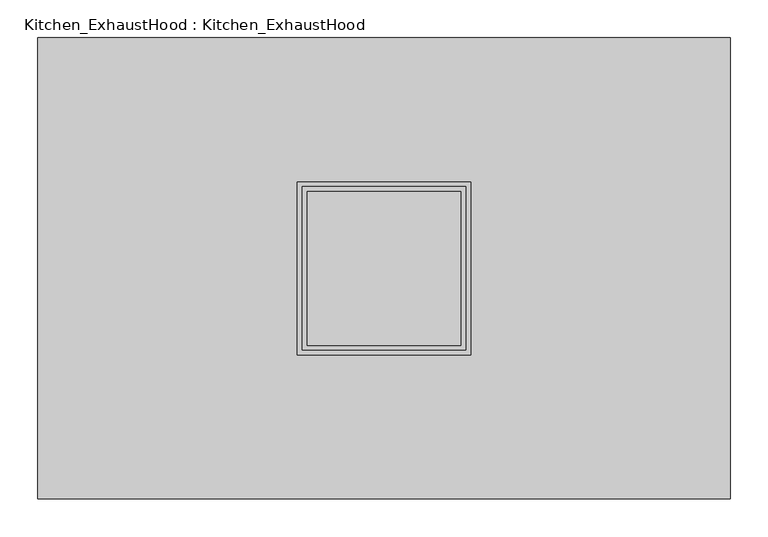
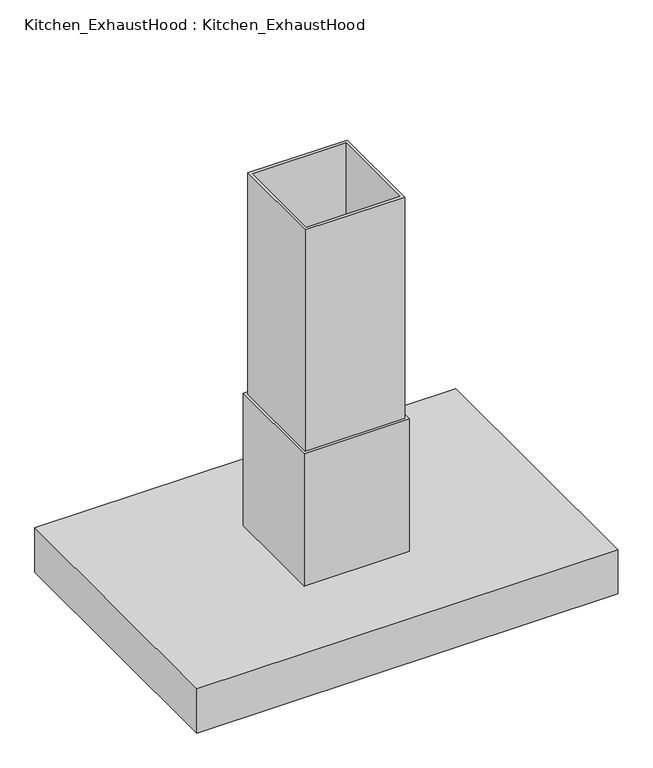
"""IFC4 building model written with IfcOpenShell, lengths in millimetres: proxy geometry, Kitchen_ExhaustHood : Kitchen_ExhaustHood."""

from ifc_helpers import new_model, si_unit, point, frame, frame_2d, origin, origin_2d, place, context, project, spatial, polyline, circle_curve, ellipse_curve, trimmed, segment, composite_curve, outline, extrude, faceted_brep, source, transform, mapped, element, save
from ifc_brep_helpers import plane_surface, cylinder_surface, revolved_surface, advanced_brep


def kitchen_exhausthood_kitchen_exhausthood_eb094368(model_context):
    return source(origin(), model_context, "Body", "SolidModel", [
        advanced_brep(
        [(245.9934915, 0.0, 928.6509221), (211.2065085, 0.0, 928.6509221), (228.6, 0.0, 944.5625), (247.65, 0.0, 928.6509221), (209.55, 0.0, 928.6509221), (247.65, 0.0, 927.1), (209.55, 0.0, 927.1), (244.475, 0.0, 927.1), (212.725, 0.0, 927.1), (228.6, 0.0, 942.975)],
        [
            (0, 1, circle_curve(frame((228.6, 0.0, 928.6509221), z_axis=(0.0, 0.0, 1.0), x_axis=(-1.0, 0.0, 0.0)), 17.3934915)),
            (1, 2, circle_curve(frame((228.6, 0.0, 927.1), z_axis=(0.0, 1.0, 0.0), x_axis=(1.0, 0.0, 0.0)), 17.4625)),
            (2, 0, circle_curve(frame((228.6, 0.0, 927.1), z_axis=(0.0, 1.0, 0.0), x_axis=(-1.0, 0.0, 0.0)), 17.4625)),
            (1, 0, circle_curve(frame((228.6, 0.0, 928.6509221), z_axis=(0.0, 0.0, 1.0), x_axis=(-1.0, 0.0, 0.0)), 17.3934915)),
            (3, 4, circle_curve(frame((228.6, 0.0, 928.6509221), z_axis=(0.0, 0.0, 1.0), x_axis=(-1.0, 0.0, 0.0)), 19.05)),
            (4, 1),
            (0, 3),
            (4, 3, circle_curve(frame((228.6, 0.0, 928.6509221), z_axis=(0.0, 0.0, 1.0), x_axis=(-1.0, 0.0, 0.0)), 19.05)),
            (5, 6, circle_curve(frame((228.6, 0.0, 927.1), z_axis=(0.0, 0.0, 1.0), x_axis=(-1.0, 0.0, 0.0)), 19.05)),
            (6, 4),
            (3, 5),
            (6, 5, circle_curve(frame((228.6, 0.0, 927.1), z_axis=(0.0, 0.0, 1.0), x_axis=(-1.0, 0.0, 0.0)), 19.05)),
            (7, 8, circle_curve(frame((228.6, 0.0, 927.1), z_axis=(0.0, 0.0, 1.0), x_axis=(-1.0, 0.0, 0.0)), 15.875)),
            (8, 6),
            (5, 7),
            (8, 7, circle_curve(frame((228.6, 0.0, 927.1), z_axis=(0.0, 0.0, 1.0), x_axis=(-1.0, 0.0, 0.0)), 15.875)),
            (9, 8, circle_curve(frame((228.6, 0.0, 927.1), z_axis=(0.0, -1.0, 0.0), x_axis=(1.0, 0.0, 0.0)), 15.875)),
            (7, 9, circle_curve(frame((228.6, 0.0, 927.1), z_axis=(0.0, -1.0, 0.0), x_axis=(-1.0, 0.0, 0.0)), 15.875)),
        ],
        [
            revolved_surface(trimmed(ellipse_curve(frame((228.6, 0.0, 927.1), z_axis=(0.0, -1.0, 0.0), x_axis=(1.0, 0.0, 0.0)), 17.4625, 17.4625), [point((228.6, 0.0, 944.5625))], [point((211.2065085, 0.0, 928.6509221))], True, "CARTESIAN"), (228.6, 0.0, 844.55), (0.0, 0.0, -1.0)),
            plane_surface(frame((228.6, 0.0, 928.6509221), z_axis=(0.0, 0.0, 1.0), x_axis=(-1.0, 0.0, 0.0))),
            cylinder_surface(frame((228.6, 0.0, 844.55), z_axis=(0.0, 0.0, -1.0), x_axis=(-1.0, 0.0, 0.0)), 19.05),
            plane_surface(frame((228.6, 0.0, 927.1), z_axis=(0.0, 0.0, -1.0), x_axis=(-1.0, 0.0, 0.0))),
            revolved_surface(trimmed(ellipse_curve(frame((228.6, 0.0, 927.1), z_axis=(0.0, 1.0, 0.0), x_axis=(1.0, 0.0, 0.0)), 15.875, 15.875), [point((212.725, 0.0, 927.1))], [point((228.6, 0.0, 942.975))], True, "CARTESIAN"), (228.6, 0.0, 844.55), (0.0, 0.0, -1.0)),
        ],
        [
            (0, [[1, 2, 3]]),
            (0, [[4, -3, -2]]),
            (1, [[5, 6, -1, 7]]),
            (1, [[8, -7, -4, -6]]),
            (2, [[9, 10, -5, 11]]),
            (2, [[12, -11, -8, -10]]),
            (3, [[13, 14, -9, 15]]),
            (3, [[16, -15, -12, -14]]),
            (4, [[17, -13, 18]]),
            (4, [[-18, -16, -17]]),
        ],
    ),
        advanced_brep(
        [(17.3934915, 0.0, 928.6509221), (-17.3934915, 0.0, 928.6509221), (0.0, 0.0, 944.5625), (19.05, 0.0, 928.6509221), (-19.05, 0.0, 928.6509221), (19.05, 0.0, 927.1), (-19.05, 0.0, 927.1), (15.875, 0.0, 927.1), (-15.875, 0.0, 927.1), (0.0, 0.0, 942.975)],
        [
            (0, 1, circle_curve(frame((0.0, 0.0, 928.6509221), z_axis=(0.0, 0.0, 1.0), x_axis=(-1.0, 0.0, 0.0)), 17.3934915)),
            (1, 2, circle_curve(frame((0.0, 0.0, 927.1), z_axis=(0.0, 1.0, 0.0), x_axis=(1.0, 0.0, 0.0)), 17.4625)),
            (2, 0, circle_curve(frame((0.0, 0.0, 927.1), z_axis=(0.0, 1.0, 0.0), x_axis=(-1.0, 0.0, 0.0)), 17.4625)),
            (1, 0, circle_curve(frame((0.0, 0.0, 928.6509221), z_axis=(0.0, 0.0, 1.0), x_axis=(-1.0, 0.0, 0.0)), 17.3934915)),
            (3, 4, circle_curve(frame((0.0, 0.0, 928.6509221), z_axis=(0.0, 0.0, 1.0), x_axis=(-1.0, 0.0, 0.0)), 19.05)),
            (4, 1),
            (0, 3),
            (4, 3, circle_curve(frame((0.0, 0.0, 928.6509221), z_axis=(0.0, 0.0, 1.0), x_axis=(-1.0, 0.0, 0.0)), 19.05)),
            (5, 6, circle_curve(frame((0.0, 0.0, 927.1), z_axis=(0.0, 0.0, 1.0), x_axis=(-1.0, 0.0, 0.0)), 19.05)),
            (6, 4),
            (3, 5),
            (6, 5, circle_curve(frame((0.0, 0.0, 927.1), z_axis=(0.0, 0.0, 1.0), x_axis=(-1.0, 0.0, 0.0)), 19.05)),
            (7, 8, circle_curve(frame((0.0, 0.0, 927.1), z_axis=(0.0, 0.0, 1.0), x_axis=(-1.0, 0.0, 0.0)), 15.875)),
            (8, 6),
            (5, 7),
            (8, 7, circle_curve(frame((0.0, 0.0, 927.1), z_axis=(0.0, 0.0, 1.0), x_axis=(-1.0, 0.0, 0.0)), 15.875)),
            (9, 8, circle_curve(frame((0.0, 0.0, 927.1), z_axis=(0.0, -1.0, 0.0), x_axis=(1.0, 0.0, 0.0)), 15.875)),
            (7, 9, circle_curve(frame((0.0, 0.0, 927.1), z_axis=(0.0, -1.0, 0.0), x_axis=(-1.0, 0.0, 0.0)), 15.875)),
        ],
        [
            revolved_surface(trimmed(ellipse_curve(frame((0.0, 0.0, 927.1), z_axis=(0.0, -1.0, 0.0), x_axis=(1.0, 0.0, 0.0)), 17.4625, 17.4625), [point((0.0, 0.0, 944.5625))], [point((-17.3934915, 0.0, 928.6509221))], True, "CARTESIAN"), (0.0, 0.0, 844.55), (0.0, 0.0, -1.0)),
            plane_surface(frame((0.0, 0.0, 928.6509221), z_axis=(0.0, 0.0, 1.0), x_axis=(-1.0, 0.0, 0.0))),
            cylinder_surface(frame((0.0, 0.0, 844.55), z_axis=(0.0, 0.0, -1.0), x_axis=(-1.0, 0.0, 0.0)), 19.05),
            plane_surface(frame((0.0, 0.0, 927.1), z_axis=(0.0, 0.0, -1.0), x_axis=(-1.0, 0.0, 0.0))),
            revolved_surface(trimmed(ellipse_curve(frame((0.0, 0.0, 927.1), z_axis=(0.0, 1.0, 0.0), x_axis=(1.0, 0.0, 0.0)), 15.875, 15.875), [point((-15.875, 0.0, 927.1))], [point((0.0, 0.0, 942.975))], True, "CARTESIAN"), (0.0, 0.0, 844.55), (0.0, 0.0, -1.0)),
        ],
        [
            (0, [[1, 2, 3]]),
            (0, [[4, -3, -2]]),
            (1, [[5, 6, -1, 7]]),
            (1, [[8, -7, -4, -6]]),
            (2, [[9, 10, -5, 11]]),
            (2, [[12, -11, -8, -10]]),
            (3, [[13, 14, -9, 15]]),
            (3, [[16, -15, -12, -14]]),
            (4, [[17, -13, 18]]),
            (4, [[-18, -16, -17]]),
        ],
    ),
        advanced_brep(
        [(-211.2065085, 0.0, 928.6509221), (-245.9934915, 0.0, 928.6509221), (-228.6, 0.0, 944.5625), (-209.55, 0.0, 928.6509221), (-247.65, 0.0, 928.6509221), (-209.55, 0.0, 927.1), (-247.65, 0.0, 927.1), (-212.725, 0.0, 927.1), (-244.475, 0.0, 927.1), (-228.6, 0.0, 942.975)],
        [
            (0, 1, circle_curve(frame((-228.6, 0.0, 928.6509221), z_axis=(0.0, 0.0, 1.0), x_axis=(-1.0, 0.0, 0.0)), 17.3934915)),
            (1, 2, circle_curve(frame((-228.6, 0.0, 927.1), z_axis=(0.0, 1.0, 0.0), x_axis=(1.0, 0.0, 0.0)), 17.4625)),
            (2, 0, circle_curve(frame((-228.6, 0.0, 927.1), z_axis=(0.0, 1.0, 0.0), x_axis=(-1.0, 0.0, 0.0)), 17.4625)),
            (1, 0, circle_curve(frame((-228.6, 0.0, 928.6509221), z_axis=(0.0, 0.0, 1.0), x_axis=(-1.0, 0.0, 0.0)), 17.3934915)),
            (3, 4, circle_curve(frame((-228.6, 0.0, 928.6509221), z_axis=(0.0, 0.0, 1.0), x_axis=(-1.0, 0.0, 0.0)), 19.05)),
            (4, 1),
            (0, 3),
            (4, 3, circle_curve(frame((-228.6, 0.0, 928.6509221), z_axis=(0.0, 0.0, 1.0), x_axis=(-1.0, 0.0, 0.0)), 19.05)),
            (5, 6, circle_curve(frame((-228.6, 0.0, 927.1), z_axis=(0.0, 0.0, 1.0), x_axis=(-1.0, 0.0, 0.0)), 19.05)),
            (6, 4),
            (3, 5),
            (6, 5, circle_curve(frame((-228.6, 0.0, 927.1), z_axis=(0.0, 0.0, 1.0), x_axis=(-1.0, 0.0, 0.0)), 19.05)),
            (7, 8, circle_curve(frame((-228.6, 0.0, 927.1), z_axis=(0.0, 0.0, 1.0), x_axis=(-1.0, 0.0, 0.0)), 15.875)),
            (8, 6),
            (5, 7),
            (8, 7, circle_curve(frame((-228.6, 0.0, 927.1), z_axis=(0.0, 0.0, 1.0), x_axis=(-1.0, 0.0, 0.0)), 15.875)),
            (9, 8, circle_curve(frame((-228.6, 0.0, 927.1), z_axis=(0.0, -1.0, 0.0), x_axis=(1.0, 0.0, 0.0)), 15.875)),
            (7, 9, circle_curve(frame((-228.6, 0.0, 927.1), z_axis=(0.0, -1.0, 0.0), x_axis=(-1.0, 0.0, 0.0)), 15.875)),
        ],
        [
            revolved_surface(trimmed(ellipse_curve(frame((-228.6, 0.0, 927.1), z_axis=(0.0, -1.0, 0.0), x_axis=(1.0, 0.0, 0.0)), 17.4625, 17.4625), [point((-228.6, 0.0, 944.5625))], [point((-245.9934915, 0.0, 928.6509221))], True, "CARTESIAN"), (-228.6, 0.0, 844.55), (0.0, 0.0, -1.0)),
            plane_surface(frame((-228.6, 0.0, 928.6509221), z_axis=(0.0, 0.0, 1.0), x_axis=(-1.0, 0.0, 0.0))),
            cylinder_surface(frame((-228.6, 0.0, 844.55), z_axis=(0.0, 0.0, -1.0), x_axis=(-1.0, 0.0, 0.0)), 19.05),
            plane_surface(frame((-228.6, 0.0, 927.1), z_axis=(0.0, 0.0, -1.0), x_axis=(-1.0, 0.0, 0.0))),
            revolved_surface(trimmed(ellipse_curve(frame((-228.6, 0.0, 927.1), z_axis=(0.0, 1.0, 0.0), x_axis=(1.0, 0.0, 0.0)), 15.875, 15.875), [point((-244.475, 0.0, 927.1))], [point((-228.6, 0.0, 942.975))], True, "CARTESIAN"), (-228.6, 0.0, 844.55), (0.0, 0.0, -1.0)),
        ],
        [
            (0, [[1, 2, 3]]),
            (0, [[4, -3, -2]]),
            (1, [[5, 6, -1, 7]]),
            (1, [[8, -7, -4, -6]]),
            (2, [[9, 10, -5, 11]]),
            (2, [[12, -11, -8, -10]]),
            (3, [[13, 14, -9, 15]]),
            (3, [[16, -15, -12, -14]]),
            (4, [[17, -13, 18]]),
            (4, [[-18, -16, -17]]),
        ],
    ),
        extrude(outline(polyline([(438.15, -57.15), (-438.15, -57.15), (-438.15, 57.15), (438.15, 57.15), (438.15, -57.15)]), holes=[composite_curve([segment(trimmed(circle_curve(frame_2d((-228.6, 0.0)), 19.05), [point((-247.65, 0.0))], [point((-209.55, 0.0))], True, "CARTESIAN"), True, "CONTINUOUS"), segment(trimmed(circle_curve(frame_2d((-228.6, 0.0)), 19.05), [point((-209.55, 0.0))], [point((-247.65, 0.0))], True, "CARTESIAN"), True, "CONTINUOUS")], self_intersect=False), composite_curve([segment(trimmed(circle_curve(origin_2d(), 19.05), [point((-19.05, 0.0))], [point((19.05, 0.0))], True, "CARTESIAN"), True, "CONTINUOUS"), segment(trimmed(circle_curve(origin_2d(), 19.05), [point((19.05, 0.0))], [point((-19.05, 0.0))], True, "CARTESIAN"), True, "CONTINUOUS")], self_intersect=False), composite_curve([segment(trimmed(circle_curve(frame_2d((228.6, 0.0)), 19.05), [point((209.55, 0.0))], [point((247.65, 0.0))], True, "CARTESIAN"), True, "CONTINUOUS"), segment(trimmed(circle_curve(frame_2d((228.6, 0.0)), 19.05), [point((247.65, 0.0))], [point((209.55, 0.0))], True, "CARTESIAN"), True, "CONTINUOUS")], self_intersect=False)]), frame((0.0, 0.0, 927.1), z_axis=(0.0, 0.0, 1.0), x_axis=(1.0, 0.0, 0.0)), (0.0, 0.0, 1.0), 6.35),
        extrude(outline(polyline([(-228.6, 285.75), (-228.6, 57.15), (-438.15, 57.15), (-438.15, 285.75), (-228.6, 285.75)])), frame((0.0, 0.0, 927.1), z_axis=(0.0, 0.0, 1.0), x_axis=(1.0, 0.0, 0.0)), (0.0, 0.0, 1.0), 6.35),
        extrude(outline(polyline([(228.6, 285.75), (228.6, 57.15), (0.0, 57.15), (0.0, 285.75), (228.6, 285.75)])), frame((0.0, 0.0, 927.1), z_axis=(0.0, 0.0, 1.0), x_axis=(1.0, 0.0, 0.0)), (0.0, 0.0, 1.0), 6.35),
        extrude(outline(polyline([(438.15, -285.75), (228.6, -285.75), (228.6, -57.15), (438.15, -57.15), (438.15, -285.75)])), frame((0.0, 0.0, 927.1), z_axis=(0.0, 0.0, 1.0), x_axis=(1.0, 0.0, 0.0)), (0.0, 0.0, 1.0), 6.35),
        extrude(outline(polyline([(0.0, -285.75), (-228.6, -285.75), (-228.6, -57.15), (0.0, -57.15), (0.0, -285.75)])), frame((0.0, 0.0, 927.1), z_axis=(0.0, 0.0, 1.0), x_axis=(1.0, 0.0, 0.0)), (0.0, 0.0, 1.0), 6.35),
        extrude(outline(polyline([(-228.6, -57.15), (-228.6, -285.75), (-438.15, -285.75), (-438.15, -57.15), (-228.6, -57.15)])), frame((0.0, 0.0, 927.1), z_axis=(0.0, 0.0, 1.0), x_axis=(1.0, 0.0, 0.0)), (0.0, 0.0, 1.0), 6.35),
        extrude(outline(polyline([(0.0, 57.15), (-228.6, 57.15), (-228.6, 285.75), (0.0, 285.75), (0.0, 57.15)])), frame((0.0, 0.0, 927.1), z_axis=(0.0, 0.0, 1.0), x_axis=(1.0, 0.0, 0.0)), (0.0, 0.0, 1.0), 6.35),
        extrude(outline(polyline([(228.6, -57.15), (228.6, -285.75), (0.0, -285.75), (0.0, -57.15), (228.6, -57.15)])), frame((0.0, 0.0, 927.1), z_axis=(0.0, 0.0, 1.0), x_axis=(1.0, 0.0, 0.0)), (0.0, 0.0, 1.0), 6.35),
        extrude(outline(polyline([(438.15, 57.15), (228.6, 57.15), (228.6, 285.75), (438.15, 285.75), (438.15, 57.15)])), frame((0.0, 0.0, 927.1), z_axis=(0.0, 0.0, 1.0), x_axis=(1.0, 0.0, 0.0)), (0.0, 0.0, 1.0), 6.35),
        faceted_brep([(457.2, 304.8, 1016.0), (-457.2, 304.8, 1016.0), (-457.2, -304.8, 1016.0), (457.2, -304.8, 1016.0), (457.2, 304.8, 914.4), (-457.2, 304.8, 914.4), (-457.2, -304.8, 914.4), (457.2, -304.8, 914.4), (438.15, 285.75, 927.1), (-438.15, 285.75, 927.1), (-438.15, -285.75, 927.1), (438.15, -285.75, 927.1), (438.15, 285.75, 965.2), (438.15, -285.75, 965.2), (-438.15, -285.75, 965.2), (-438.15, 285.75, 965.2)], [[[0, 1, 2, 3]], [[1, 0, 4, 5]], [[2, 1, 5, 6]], [[3, 2, 6, 7]], [[0, 3, 7, 4]], [[4, 8, 9, 5]], [[5, 9, 10, 6]], [[6, 10, 11, 7]], [[8, 4, 7, 11]], [[12, 13, 14, 15]], [[12, 15, 9, 8]], [[15, 14, 10, 9]], [[14, 13, 11, 10]], [[13, 12, 8, 11]]]),
        extrude(outline(polyline([(107.95, 107.95), (107.95, -107.95), (-107.95, -107.95), (-107.95, 107.95), (107.95, 107.95)]), holes=[polyline([(101.6, 101.6), (-101.6, 101.6), (-101.6, -101.6), (101.6, -101.6), (101.6, 101.6)])]), frame((0.0, 0.0, 1003.3), z_axis=(0.0, 0.0, 1.0), x_axis=(1.0, 0.0, 0.0)), (0.0, 0.0, 1.0), 825.5),
        extrude(outline(polyline([(114.3, 114.3), (114.3, -114.3), (-114.3, -114.3), (-114.3, 114.3), (114.3, 114.3)]), holes=[polyline([(107.95, 107.95), (-107.95, 107.95), (-107.95, -107.95), (107.95, -107.95), (107.95, 107.95)])]), frame((0.0, 0.0, 1016.0), z_axis=(0.0, 0.0, 1.0), x_axis=(1.0, 0.0, 0.0)), (0.0, 0.0, 1.0), 304.8),
    ])


if __name__ == "__main__":
    model = new_model("IFC4")
    model_context = context("Model", 3, world=origin())
    ifc_project = project(units=[si_unit("LENGTHUNIT", "METRE", prefix="MILLI")], contexts=[model_context])
    site = spatial("IfcSite", under=ifc_project)
    building = spatial("IfcBuilding", under=site)
    placement = place(None, origin())
    kitchen_exhausthood_kitchen_exhausthood_shape = kitchen_exhausthood_kitchen_exhausthood_eb094368(model_context)
    element("IfcBuildingElementProxy", 1, Name="Kitchen_ExhaustHood : Kitchen_ExhaustHood", ObjectType="Kitchen_ExhaustHood : Kitchen_ExhaustHood", at=placement, inside=building, context=model_context, shape_type="MappedRepresentation", body=[
        mapped(kitchen_exhausthood_kitchen_exhausthood_shape, transform((0.0, 0.0, 0.0), x_axis=(1.0, 0.0, 0.0), y_axis=(0.0, 1.0, 0.0), z_axis=(0.0, 0.0, 1.0))),
    ])
    save(model, "model.ifc")
